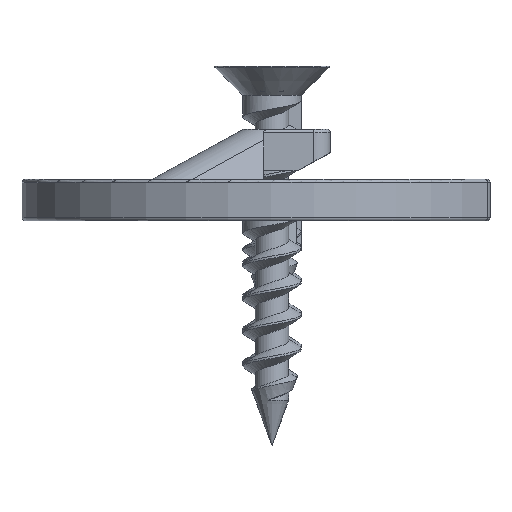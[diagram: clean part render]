
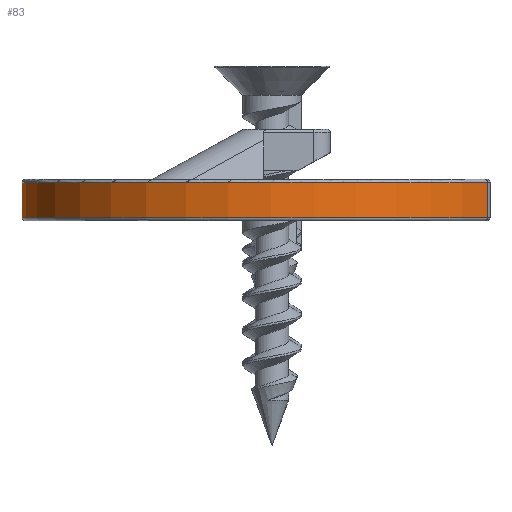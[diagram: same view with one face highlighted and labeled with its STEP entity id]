
A CAD part, front view. The second image highlights one B-rep face of the part: STEP entity #83.
In plain terms, the highlighted cylindrical face has radius 15 mm (diameter 30 mm), a partial arc.
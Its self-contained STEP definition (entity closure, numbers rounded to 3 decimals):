
#83 = ADVANCED_FACE( '', ( #274 ), #275, .T. );
#274 = FACE_OUTER_BOUND( '', #673, .T. );
#275 = CYLINDRICAL_SURFACE( '', #674, 15. );
#673 = EDGE_LOOP( '', ( #6956, #6957, #6958, #6959 ) );
#674 = AXIS2_PLACEMENT_3D( '', #6960, #6961, #6962 );
#6956 = ORIENTED_EDGE( '', *, *, #8634, .T. );
#6957 = ORIENTED_EDGE( '', *, *, #8635, .T. );
#6958 = ORIENTED_EDGE( '', *, *, #8636, .F. );
#6959 = ORIENTED_EDGE( '', *, *, #8637, .T. );
#6960 = CARTESIAN_POINT( '', ( 0., 0., 2.5 ) );
#6961 = DIRECTION( '', ( 0., 0., 1. ) );
#6962 = DIRECTION( '', ( -1., 0., 0. ) );
#8634 = EDGE_CURVE( '', #9131, #9132, #9133, .T. );
#8635 = EDGE_CURVE( '', #9132, #9134, #9135, .T. );
#8636 = EDGE_CURVE( '', #9136, #9134, #9137, .T. );
#8637 = EDGE_CURVE( '', #9136, #9131, #9138, .F. );
#9131 = VERTEX_POINT( '', #9943 );
#9132 = VERTEX_POINT( '', #9944 );
#9133 = LINE( '', #9945, #9946 );
#9134 = VERTEX_POINT( '', #9947 );
#9135 = CIRCLE( '', #9948, 15. );
#9136 = VERTEX_POINT( '', #9949 );
#9137 = LINE( '', #9950, #9951 );
#9138 = CIRCLE( '', #9952, 15. );
#9943 = CARTESIAN_POINT( '', ( 12.931, -7.601, 0.2 ) );
#9944 = CARTESIAN_POINT( '', ( 12.931, -7.601, 2.3 ) );
#9945 = CARTESIAN_POINT( '', ( 12.931, -7.601, -41.186 ) );
#9946 = VECTOR( '', #12201, 1000. );
#9947 = CARTESIAN_POINT( '', ( 12.931, 7.601, 2.3 ) );
#9948 = AXIS2_PLACEMENT_3D( '', #12202, #12203, #12204 );
#9949 = CARTESIAN_POINT( '', ( 12.931, 7.601, 0.2 ) );
#9950 = CARTESIAN_POINT( '', ( 12.931, 7.601, -41.186 ) );
#9951 = VECTOR( '', #12205, 1000. );
#9952 = AXIS2_PLACEMENT_3D( '', #12206, #12207, #12208 );
#12201 = DIRECTION( '', ( 0., 0., 1. ) );
#12202 = CARTESIAN_POINT( '', ( 0., 0., 2.3 ) );
#12203 = DIRECTION( '', ( 0., 0., -1. ) );
#12204 = DIRECTION( '', ( -1., 0., 0. ) );
#12205 = DIRECTION( '', ( 0., 0., 1. ) );
#12206 = CARTESIAN_POINT( '', ( 0., 0., 0.2 ) );
#12207 = DIRECTION( '', ( 0., 0., -1. ) );
#12208 = DIRECTION( '', ( -1., 0., 0. ) );
